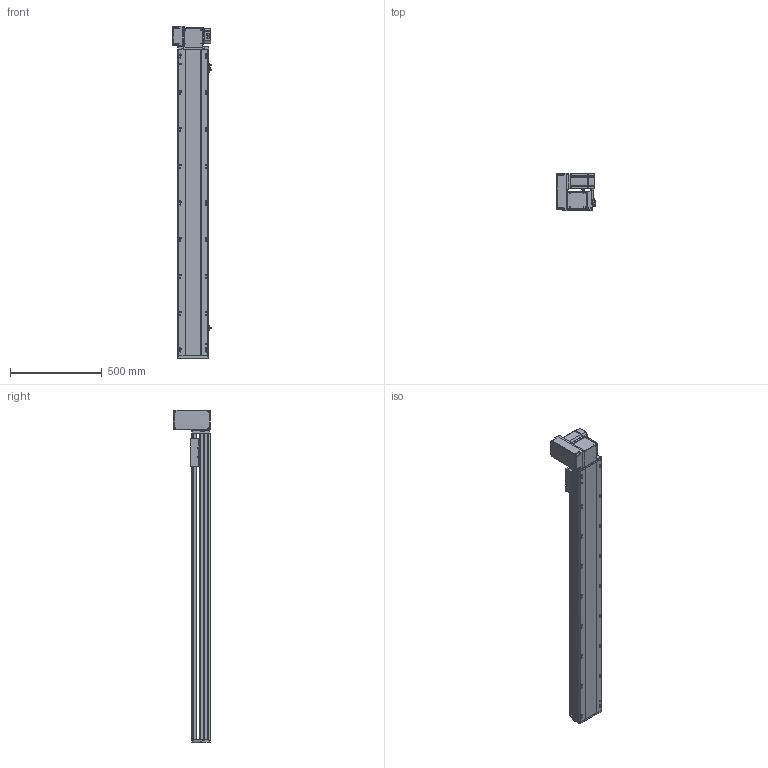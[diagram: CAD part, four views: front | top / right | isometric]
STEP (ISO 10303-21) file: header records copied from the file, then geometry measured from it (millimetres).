
FILE_DESCRIPTION (( 'STEP AP214' ), '1' );
FILE_NAME ('RTB17S-XX-1400-LW-M75-C4.STEP', '2025-12-12T01:06:41', ( '' ), ( '' ), 'SwSTEP 2.0', 'SolidWorks 2018', '' );
FILE_SCHEMA (( 'AUTOMOTIVE_DESIGN' ));
Length unit declared in the file: millimetre
Products named in the file (15): RTB17S-L-014-T20-P75--々湍釱^RTB17S-LW-々湍釱蚾饜-750W_RTB17S-XX-XX-LW-M75-C4; RTB22S-GY-005P^RTB17S-LW-々湍釱蚾饜-750W_RTB17S-XX-XX-LW-M75-C4; RTB17S-LW-々湍釱蚾饜-750W^RTB17S-XX-XX-LW-M75-C4; RTB17S-XX-1400-LW-M75-C4; RTB22S-GY-018P^RTB17S-LW-々湍釱蚾饜-750W_RTB17S-XX-XX-LW-M75-C4; EE672^RTB17S-XX-XX-LW-M75-C4; RTB22S-GY-008-M75--萇儂啣^RTB17S-LW-々湍釱蚾饜-750W_RTB17S-XX-XX-LW-M75-C4; RTB22S-GY-017P^RTB17S-LW-々湍釱蚾饜-750W_RTB17S-XX-XX-LW-M75-C4; RTB17S-賑釱^RTB17S-XX-XX-LW-M75-C4; RTB17S-L-007奻裔^RTB17S-XX-XX-LW-M75-C4; RTB17S-L-004-賑釱^RTB17S-賑釱_RTB17S-XX-XX-LW-M75-C4; RTB17-R-011菁釱^RTB17S-XX-XX-LW-M75-C4; RTH13-BL-012覜茼え俋离^RTB17S-賑釱_RTB17S-XX-XX-LW-M75-C4; 750W萇儂^RTB17S-XX-XX-LW-M75-C4; RTB17S-L-001-耜醱啣^RTB17S-XX-XX-LW-M75-C4
Assembly tree (17 placements, depth 3):
  RTB17S-XX-1400-LW-M75-C4
    RTB17-R-011菁釱^RTB17S-XX-XX-LW-M75-C4
    EE672^RTB17S-XX-XX-LW-M75-C4  x3
    RTB17S-L-001-耜醱啣^RTB17S-XX-XX-LW-M75-C4
    RTB17S-賑釱^RTB17S-XX-XX-LW-M75-C4
      RTB17S-L-004-賑釱^RTB17S-賑釱_RTB17S-XX-XX-LW-M75-C4
      RTH13-BL-012覜茼え俋离^RTB17S-賑釱_RTB17S-XX-XX-LW-M75-C4
    RTB17S-L-007奻裔^RTB17S-XX-XX-LW-M75-C4
    750W萇儂^RTB17S-XX-XX-LW-M75-C4
    RTB17S-LW-々湍釱蚾饜-750W^RTB17S-XX-XX-LW-M75-C4
      RTB17S-L-014-T20-P75--々湍釱^RTB17S-LW-々湍釱蚾饜-750W_RTB17S-XX-XX-LW-M75-C4
      RTB22S-GY-005P^RTB17S-LW-々湍釱蚾饜-750W_RTB17S-XX-XX-LW-M75-C4
      RTB22S-GY-017P^RTB17S-LW-々湍釱蚾饜-750W_RTB17S-XX-XX-LW-M75-C4  x2
      RTB22S-GY-008-M75--萇儂啣^RTB17S-LW-々湍釱蚾饜-750W_RTB17S-XX-XX-LW-M75-C4
      RTB22S-GY-018P^RTB17S-LW-々湍釱蚾饜-750W_RTB17S-XX-XX-LW-M75-C4
Bounding box: 210.4 x 201.5 x 1807.5 mm (x, y, z)
Volume: 14704223.7 mm3; surface area: 2561351.4 mm2
Topology: 17 solids, 17 shells, 2121 faces, 5890 edges, 3806 vertices
Faces by surface type: plane 974, cylinder 731, bspline 294, cone 110, sphere 8, torus 4
Entity records: 59638 total; most frequent: CARTESIAN_POINT 17554, ORIENTED_EDGE 8624, DIRECTION 8042, EDGE_CURVE 4312, AXIS2_PLACEMENT_3D 2826, VERTEX_POINT 2810, VECTOR 2390, LINE 2390
